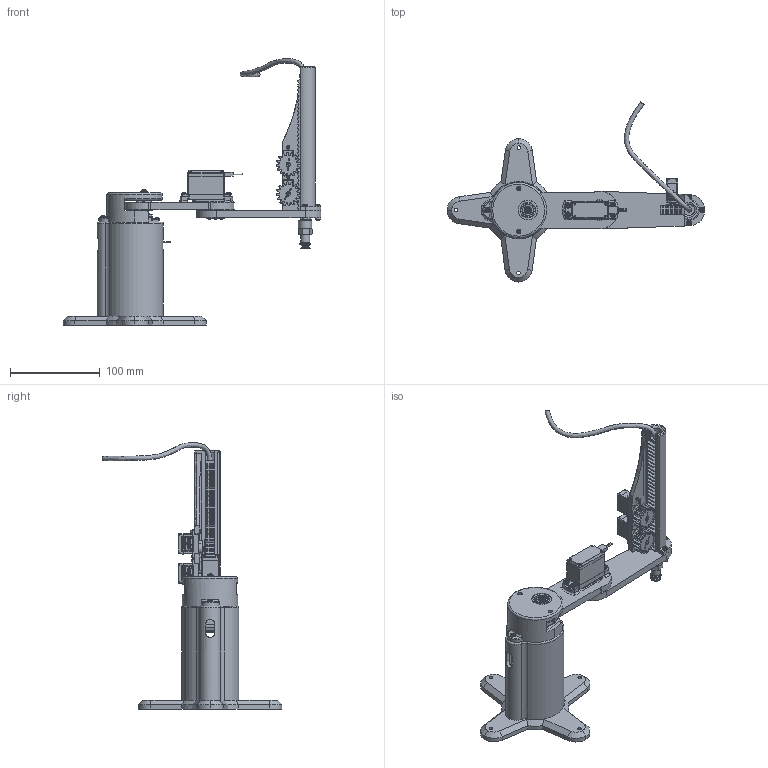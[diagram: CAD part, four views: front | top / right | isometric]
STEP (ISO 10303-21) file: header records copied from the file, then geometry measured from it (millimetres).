
FILE_DESCRIPTION(/* description */ (''),/* implementation_level */ '2;1');
FILE_NAME(/* name */ 'C:\Users\i911900\Desktop\inventor\mini_scara_2x_MG995_ventosa\step\Assieme_scara_2x_MG996_ventosa.stp',/* time_stamp */ '2022-02-02T09:34:15+01:00',/* author */ ('i911900'),/* organization */ (''),/* preprocessor_version */ 'ST-DEVELOPER v18.1',/* originating_system */ 'Autodesk Inventor 2022',/* authorisation */ '');
FILE_SCHEMA (('AUTOMOTIVE_DESIGN { 1 0 10303 214 3 1 1 }'));
Length unit declared in the file: millimetre
Products named in the file (31): Assieme_scara_2x_MG996_pignone; cilindro_base; link1; SKF Z608-Z; MG_996R; Top; Medio; Base; Eje; Acople circular; link2_mg995; chiusura_cilindro_base2; Assieme_rack_pinion_03; rack; frame; SG90 - Micro Servo 9g - Tower Pro.1_Pea; pignone; SG90 - Micro Servo 9g - Tower Pro.3_Pea; Vite con testa incassata esalobulare ISO 14579 - M2x10-8.8; AS 1420 - 1973 - M3 x 6; base_appoggio; SKF51104; AS 1427 - M3 x 25; AS 1427 - M3 x 8; AS 1427 - M3 x 16; AS 1112 - M3  Tipo 5; VTCL-110N-1/8M; VTCL-110*N-1/8M-; NPV-R-1/8-M-2; tubo aria; AS 1427 - M3 x 12
Assembly tree (54 placements, depth 3):
  Assieme_scara_2x_MG996_pignone
    MG_996R  x2
      Top
      Medio
      Base
      Eje
      Acople circular
    cilindro_base
    link1
    SKF Z608-Z
    AS 1427 - M3 x 12  x11
    link2_mg995
    AS 1427 - M3 x 16  x4
    chiusura_cilindro_base2
    Assieme_rack_pinion_03
      pignone  x2
      rack
      SG90 - Micro Servo 9g - Tower Pro.3_Pea  x2
      SG90 - Micro Servo 9g - Tower Pro.1_Pea  x2
      AS 1420 - 1973 - M3 x 6  x2
      frame
      Vite con testa incassata esalobulare ISO 14579 - M2x10-8.8  x4
    base_appoggio
    SKF51104
    AS 1427 - M3 x 25
    AS 1427 - M3 x 8  x2
    AS 1112 - M3  Tipo 5  x3
    VTCL-110N-1/8M
      VTCL-110*N-1/8M-
      NPV-R-1/8-M-2
    tubo aria
Bounding box: 287.98 x 200.5 x 297.17 mm (x, y, z)
Volume: 460274.4 mm3; surface area: 206372.2 mm2
Topology: 94 solids, 94 shells, 4317 faces, 12693 edges, 8802 vertices
Faces by surface type: plane 2507, cylinder 998, cone 378, torus 218, bspline 172, sphere 44
Full cylindrical faces by diameter (mm): 0.2 x2, 0.5 x2, 1 x12, 1.2 x20, 1.6 x4, 1.8 x8, 2 x22, 2.1 x2, 2.2 x12, 2.387 x1, 2.459 x3, 2.5 x24, 2.693 x18, 2.8 x3, 3 x26, 3.1 x5, 3.5 x1, 3.8 x4, 4 x4, 4.6 x2, 4.783 x2, 5 x5, 5.3 x2, 5.5 x2, 5.8 x2, 6 x2, 6.6 x1, 6.9 x2, 8 x2, 8.5 x2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
Entity records: 89327 total; most frequent: CARTESIAN_POINT 28602, ORIENTED_EDGE 12970, DIRECTION 11662, EDGE_CURVE 6485, VERTEX_POINT 4538, AXIS2_PLACEMENT_3D 4011, LINE 3640, VECTOR 3640
